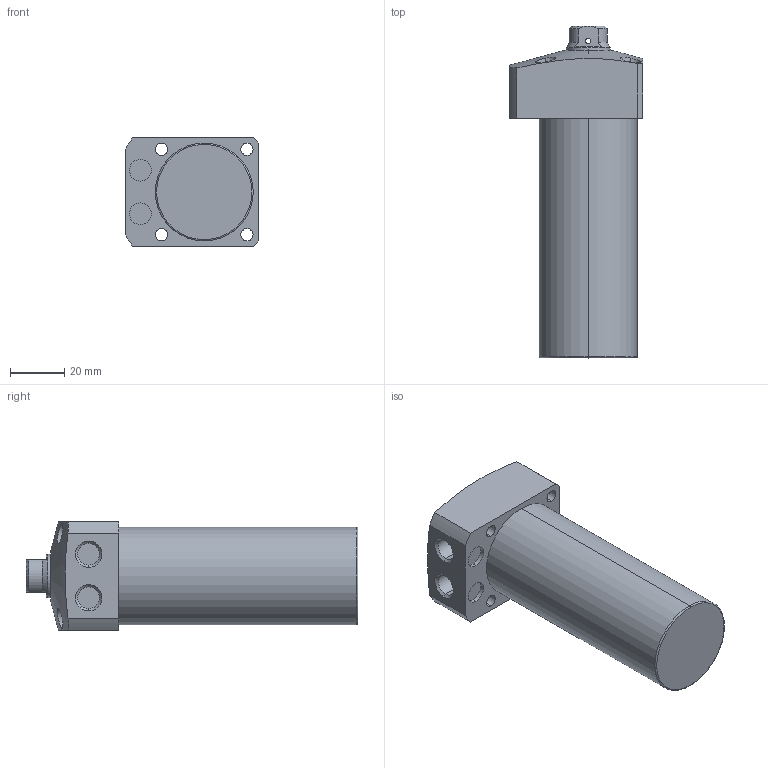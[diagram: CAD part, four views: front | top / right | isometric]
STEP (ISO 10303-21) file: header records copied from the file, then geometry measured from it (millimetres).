
FILE_DESCRIPTION (( 'STEP AP203' ), '1' );
FILE_NAME ('CLL-036CB-065.STEP', '2019-12-21T02:28:19', ( '' ), ( '' ), 'SwSTEP 2.0', 'SolidWorks 2015', '' );
FILE_SCHEMA (( 'CONFIG_CONTROL_DESIGN' ));
Length unit declared in the file: millimetre
Products named in the file (1): CLL-036CB-065
Bounding box: 49 x 122 x 40 mm (x, y, z)
Volume: 130993.2 mm3; surface area: 20160.6 mm2
Topology: 1 solids, 1 shells, 76 faces, 184 edges, 117 vertices
Faces by surface type: cylinder 38, plane 22, cone 14, torus 2
Entity records: 2699 total; most frequent: CARTESIAN_POINT 814, DIRECTION 386, ORIENTED_EDGE 364, EDGE_CURVE 182, AXIS2_PLACEMENT_3D 159, VERTEX_POINT 117, EDGE_LOOP 97, CIRCLE 82
